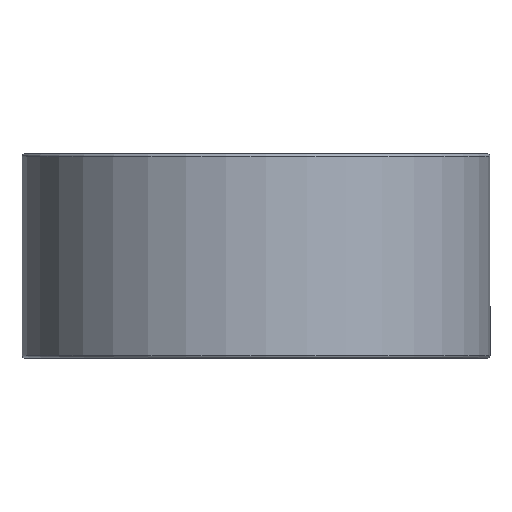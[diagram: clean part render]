
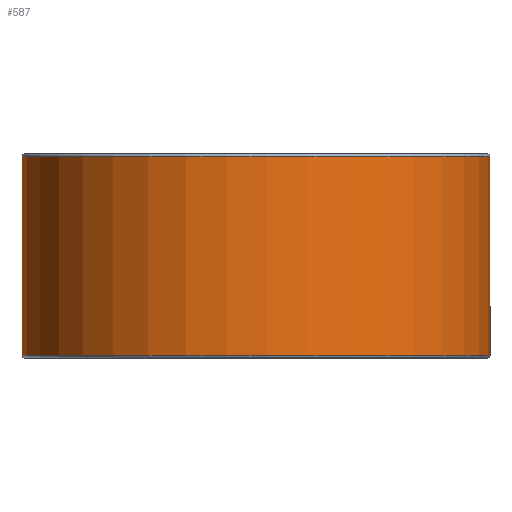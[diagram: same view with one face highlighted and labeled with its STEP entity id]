
A CAD part, front view. The second image highlights one B-rep face of the part: STEP entity #587.
In plain terms, the highlighted cylindrical face has radius 39 mm (diameter 78 mm), a full revolution.
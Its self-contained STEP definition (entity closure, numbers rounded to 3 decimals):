
#587=ADVANCED_FACE('',(#699,#700),#658,.T.);
#658=CYLINDRICAL_SURFACE('',#1517,39.);
#699=FACE_BOUND('',#776,.T.);
#700=FACE_BOUND('',#777,.T.);
#776=EDGE_LOOP('',(#911));
#777=EDGE_LOOP('',(#912));
#911=ORIENTED_EDGE('',*,*,#1297,.T.);
#912=ORIENTED_EDGE('',*,*,#1298,.T.);
#1185=VERTEX_POINT('',#2154);
#1186=VERTEX_POINT('',#2156);
#1297=EDGE_CURVE('',#1185,#1185,#1431,.T.);
#1298=EDGE_CURVE('',#1186,#1186,#1432,.T.);
#1431=CIRCLE('',#1515,39.);
#1432=CIRCLE('',#1516,39.);
#1515=AXIS2_PLACEMENT_3D('',#2153,#1705,#1706);
#1516=AXIS2_PLACEMENT_3D('',#2155,#1707,#1708);
#1517=AXIS2_PLACEMENT_3D('',#2157,#1709,#1710);
#1705=DIRECTION('',(0.,0.,-1.));
#1706=DIRECTION('',(1.,0.,0.));
#1707=DIRECTION('',(0.,0.,1.));
#1708=DIRECTION('',(1.,0.,0.));
#1709=DIRECTION('',(0.,0.,-1.));
#1710=DIRECTION('',(-1.,0.,0.));
#2153=CARTESIAN_POINT('',(0.,0.,33.5));
#2154=CARTESIAN_POINT('',(39.,0.,33.5));
#2155=CARTESIAN_POINT('',(0.,0.,0.5));
#2156=CARTESIAN_POINT('',(39.,0.,0.5));
#2157=CARTESIAN_POINT('',(0.,0.,34.));
